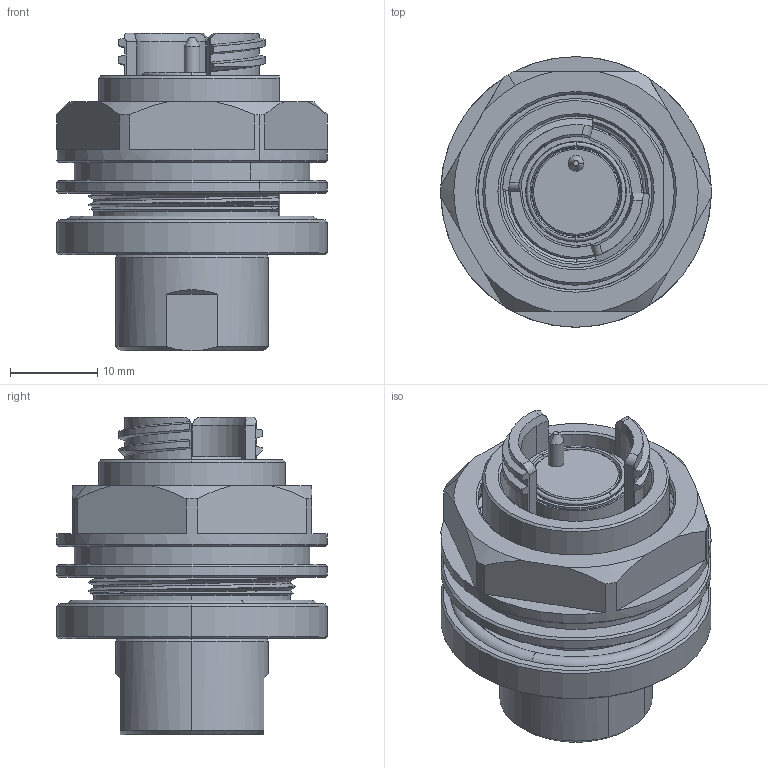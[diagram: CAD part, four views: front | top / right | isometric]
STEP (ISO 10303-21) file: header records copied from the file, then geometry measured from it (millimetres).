
FILE_DESCRIPTION (( 'STEP AP214' ), '1' );
FILE_NAME ('QMICRO-RJXX-XXXX-SXX.STEP', '2025-05-02T23:45:58', ( '' ), ( '' ), 'SwSTEP 2.0', 'SolidWorks 2024', '' );
FILE_SCHEMA (( 'AUTOMOTIVE_DESIGN' ));
Length unit declared in the file: inch
Products named in the file (1): QMICRO-RJXX-XXXX-SXX
Bounding box: 31 x 31 x 36.4 mm (x, y, z)
Volume: 13876.5 mm3; surface area: 10296.6 mm2
Topology: 2 solids, 3 shells, 310 faces, 816 edges, 520 vertices
Faces by surface type: cylinder 127, plane 70, cone 69, bspline 34, torus 10
Entity records: 17905 total; most frequent: CARTESIAN_POINT 10813, ORIENTED_EDGE 1632, DIRECTION 1337, EDGE_CURVE 816, AXIS2_PLACEMENT_3D 526, VERTEX_POINT 520, EDGE_LOOP 332, FACE_OUTER_BOUND 310
